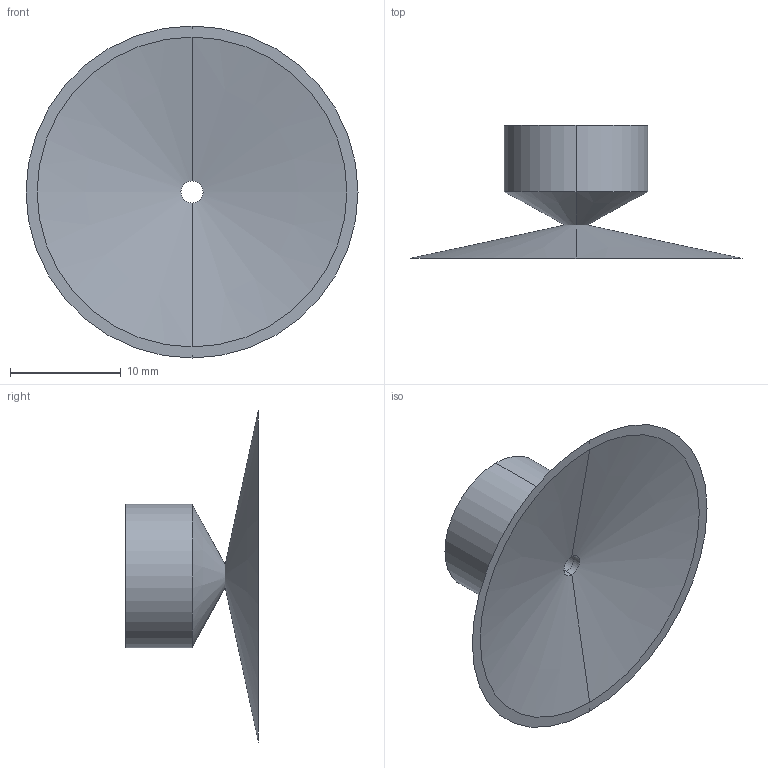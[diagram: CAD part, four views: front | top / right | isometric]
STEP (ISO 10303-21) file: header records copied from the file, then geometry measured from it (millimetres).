
FILE_DESCRIPTION (( 'STEP AP214' ), '1' );
FILE_NAME ('VSH-S30.STEP', '2019-11-30T08:47:23', ( '微软用户' ), ( '微软中国' ), 'SwSTEP 2.0', 'SolidWorks 2016', '' );
FILE_SCHEMA (( 'AUTOMOTIVE_DESIGN' ));
Length unit declared in the file: millimetre
Products named in the file (1): VSH-S30
Bounding box: 30 x 12 x 30 mm (x, y, z)
Volume: 1031 mm3; surface area: 2117.1 mm2
Topology: 2 solids, 2 shells, 20 faces, 40 edges, 24 vertices
Faces by surface type: cylinder 10, cone 6, plane 4
Entity records: 575 total; most frequent: DIRECTION 106, CARTESIAN_POINT 85, ORIENTED_EDGE 80, AXIS2_PLACEMENT_3D 45, EDGE_CURVE 40, VERTEX_POINT 24, EDGE_LOOP 24, CIRCLE 24
